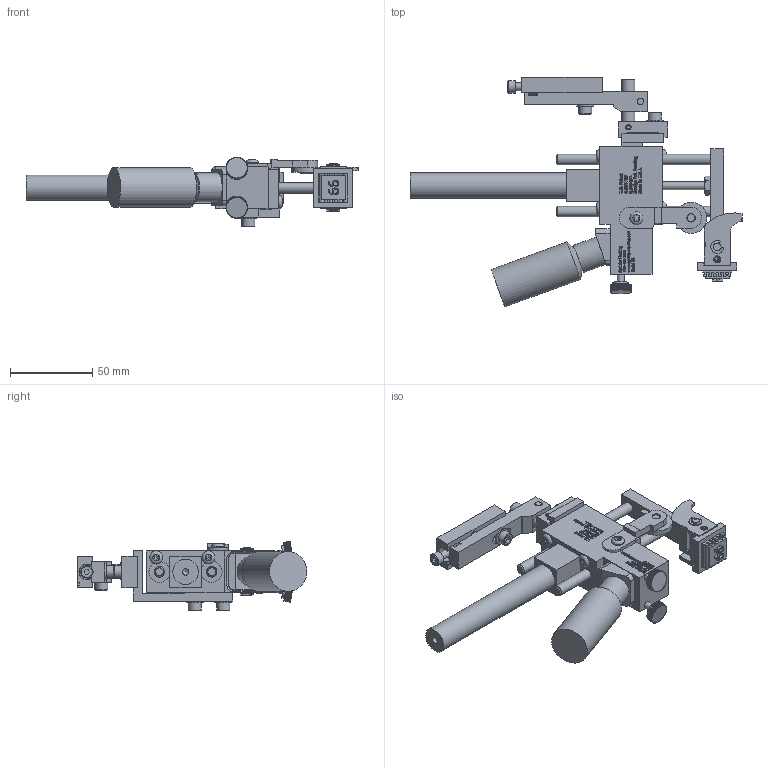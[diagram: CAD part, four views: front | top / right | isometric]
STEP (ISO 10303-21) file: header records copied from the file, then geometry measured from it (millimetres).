
FILE_DESCRIPTION((''),'2;1');
FILE_NAME('C:\Documents and Settings\Ron\My Documents\Inventor\Sprinter Drawing\Machines in Inventor\Model 66\Type\Std\Brkt\90\Model 66 Standard type 90 DEG w brkt mod 2012.stp','2012-02-29T08:36:18',('Ron'),(''),'Autodesk Inventor 2011','Autodesk Inventor 2011','');
FILE_SCHEMA(('AUTOMOTIVE_DESIGN { 1 0 10303 214 1 1 1 1 }'));
Length unit declared in the file: inch
Products named in the file (41): Model 66 Standard type 90 DEG w brkt mod 2012; 66 Frame Body Assy Std w brkt; 66 Frame Body; Hexagon Socket Button Head Cap Screw - Inch 8 - 32 x 1/4; Hexagon Socket Head Cap Screw - Inch No. 8 - 32 UNC - 1 1/2; 66 Linear Bearing; 66 Ink; 66 INK BOTTLE; 66 Ink Pad; 66 Wheel Bracket; 8-32x0.25 Hexagon Socket Button Head Cap Screw ANSI/ASME B18.3; 44 Cam Wheel; 44 Wheel Retainer; 10 Ink Resevior Lock Screw; Model 66 Bracket; Model 66 RPB; rpb4; rpb3; rpb-1; rpb2; No. 10-24x0.88 Hexagon socket head cap screw ANSI/ASME B18.3; Type B - Plain Washer (Inch) No. 10 - narrow - Type B; 66 Machine Mounting Pivot Bracket; Pin - Hardened Ground Machine Dowel (Inch) 1/8 x 3/8; Rod Carrier 90 deg std; 66 Rod Carrier; Type A - Hexagon Socket Set Screw - Cup Point - Inch 8-32 UNC x 0.32; 66 PIVOT SHAFT; 66 PIVOT SHAFT LOCKING RING; 23 66 invert block; AS 1112 (4)  - Metric M6; 66 Spring; 19 Rod Carrier Set Screws; 66 type clip; 66 Marking Head Plate; 44 & up Removable Marking Head Securing Post; 66-28; Part # 28 - number 66 stamp; Model 66, std .25 x 4; Hexagon Socket Set Screw - Flat Point - Inch 8-32 UNC x 0.32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
Assembly tree (60 placements, depth 5):
  Model 66 Standard type 90 DEG w brkt mod 2012
    66 Frame Body Assy Std w brkt
      66 Frame Body
      Hexagon Socket Button Head Cap Screw - Inch 8 - 32 x 1/4  x4
      Hexagon Socket Head Cap Screw - Inch No. 8 - 32 UNC - 1 1/2  x2
      66 Linear Bearing  x2
      66 Ink
      66 INK BOTTLE
      66 Ink Pad
      66 Wheel Bracket
      8-32x0.25 Hexagon Socket Button Head Cap Screw ANSI/ASME B18.3
      44 Cam Wheel
      44 Wheel Retainer
      10 Ink Resevior Lock Screw  x2
      Model 66 Bracket
        Model 66 RPB
          rpb4
          rpb3
          rpb-1
          rpb2
          No. 10-24x0.88 Hexagon socket head cap screw ANSI/ASME B18.3  x5
          Type B - Plain Washer (Inch) No. 10 - narrow - Type B  x4
          66 Machine Mounting Pivot Bracket
          Pin - Hardened Ground Machine Dowel (Inch) 1/8 x 3/8  x2
    Rod Carrier 90 deg std
      66 Rod Carrier
      Type A - Hexagon Socket Set Screw - Cup Point - Inch 8-32 UNC x 0.32
      66 PIVOT SHAFT
      66 PIVOT SHAFT LOCKING RING  x2
      23 66 invert block
      AS 1112 (4)  - Metric M6
      66 Spring
      19 Rod Carrier Set Screws  x2
      66 type clip
        66 Marking Head Plate
        44 & up Removable Marking Head Securing Post
        66-28
        Part # 28 - number 66 stamp
      Model 66, std .25 x 4  x2
      Hexagon Socket Set Screw - Flat Point - Inch 8-32 UNC x 0.32
    Standard 90 deg
    Model 66, std .25 x 4  x2
    44 & up Removable Marking Head Securing Post
Bounding box: 201.75 x 139.58 x 42.17 mm (x, y, z)
Volume: 172596.9 mm3; surface area: 90424 mm2
Topology: 413 solids, 413 shells, 6318 faces, 15477 edges, 9566 vertices
Faces by surface type: plane 4352, bspline 1301, cylinder 557, cone 85, torus 23
Full cylindrical faces by diameter (mm): 1.575 x1, 2.54 x2, 2.642 x2, 3.175 x4, 3.2 x1, 3.302 x12, 3.658 x1, 3.683 x2, 3.962 x12, 4.064 x2, 4.166 x11, 4.318 x2, 4.699 x3, 4.75 x3, 4.775 x2, 4.826 x8, 4.864 x2, 4.917 x1, 5.08 x2, 5.156 x7, 5.182 x1, 5.359 x1, 5.556 x1, 6.325 x2, 6.35 x9, 6.426 x1, 6.604 x1, 6.858 x2, 7.353 x4, 7.62 x2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
Entity records: 150291 total; most frequent: CARTESIAN_POINT 44982, ORIENTED_EDGE 23348, DIRECTION 16737, EDGE_CURVE 11674, VECTOR 8277, LINE 8277, VERTEX_POINT 7484, EDGE_LOOP 5214
